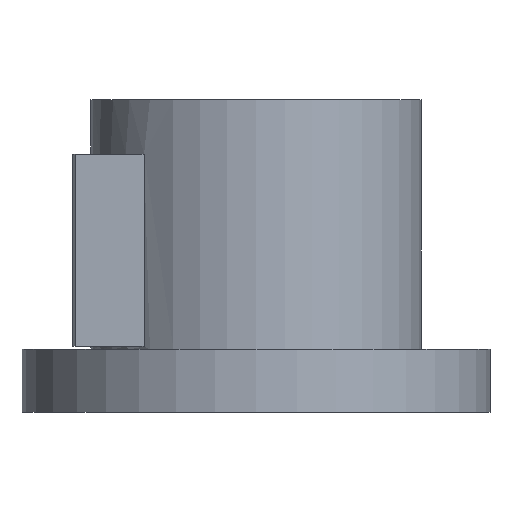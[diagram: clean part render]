
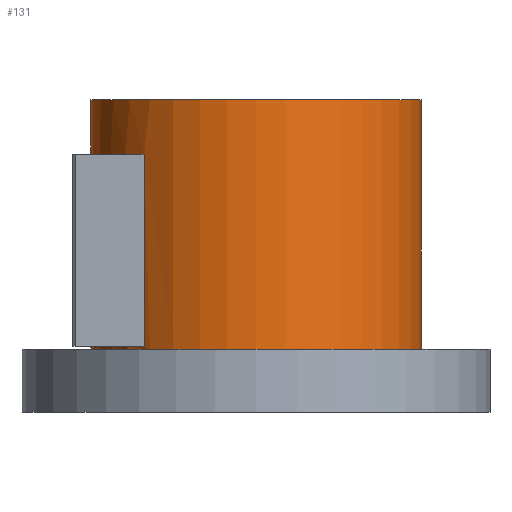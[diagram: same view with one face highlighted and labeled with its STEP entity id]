
A CAD part, front view. The second image highlights one B-rep face of the part: STEP entity #131.
In plain terms, the highlighted cylindrical face has radius 57.5 mm (diameter 115 mm), a full revolution.
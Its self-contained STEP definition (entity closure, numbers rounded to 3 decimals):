
#131=ADVANCED_FACE('',(#218,#219,#220),#161,.T.);
#161=CYLINDRICAL_SURFACE('',#550,57.5);
#174=LINE('',#752,#196);
#175=LINE('',#756,#197);
#196=VECTOR('',#612,1.);
#197=VECTOR('',#615,1.);
#218=FACE_BOUND('',#263,.T.);
#219=FACE_BOUND('',#264,.T.);
#220=FACE_BOUND('',#265,.T.);
#263=EDGE_LOOP('',(#325));
#264=EDGE_LOOP('',(#326));
#265=EDGE_LOOP('',(#327,#328,#329,#330));
#325=ORIENTED_EDGE('',*,*,#467,.F.);
#326=ORIENTED_EDGE('',*,*,#468,.T.);
#327=ORIENTED_EDGE('',*,*,#469,.F.);
#328=ORIENTED_EDGE('',*,*,#470,.F.);
#329=ORIENTED_EDGE('',*,*,#471,.T.);
#330=ORIENTED_EDGE('',*,*,#472,.F.);
#425=VERTEX_POINT('',#746);
#426=VERTEX_POINT('',#748);
#427=VERTEX_POINT('',#750);
#428=VERTEX_POINT('',#751);
#429=VERTEX_POINT('',#753);
#430=VERTEX_POINT('',#755);
#467=EDGE_CURVE('',#425,#425,#517,.T.);
#468=EDGE_CURVE('',#426,#426,#518,.T.);
#469=EDGE_CURVE('',#427,#428,#519,.T.);
#470=EDGE_CURVE('',#429,#427,#174,.T.);
#471=EDGE_CURVE('',#429,#430,#520,.T.);
#472=EDGE_CURVE('',#428,#430,#175,.T.);
#517=CIRCLE('',#546,57.5);
#518=CIRCLE('',#547,57.5);
#519=CIRCLE('',#548,57.5);
#520=CIRCLE('',#549,57.5);
#546=AXIS2_PLACEMENT_3D('',#745,#606,#607);
#547=AXIS2_PLACEMENT_3D('',#747,#608,#609);
#548=AXIS2_PLACEMENT_3D('',#749,#610,#611);
#549=AXIS2_PLACEMENT_3D('',#754,#613,#614);
#550=AXIS2_PLACEMENT_3D('',#757,#616,#617);
#606=DIRECTION('',(0.,0.,1.));
#607=DIRECTION('',(1.,0.,0.));
#608=DIRECTION('',(0.,0.,1.));
#609=DIRECTION('',(1.,0.,0.));
#610=DIRECTION('',(0.,0.,-1.));
#611=DIRECTION('',(-1.,0.,0.));
#612=DIRECTION('',(0.,0.,1.));
#613=DIRECTION('',(0.,0.,-1.));
#614=DIRECTION('',(-1.,0.,0.));
#615=DIRECTION('',(0.,0.,-1.));
#616=DIRECTION('',(0.,0.,-1.));
#617=DIRECTION('',(-1.,0.,0.));
#745=CARTESIAN_POINT('',(0.,0.,109.));
#746=CARTESIAN_POINT('',(57.5,0.,109.));
#747=CARTESIAN_POINT('',(0.,0.,22.));
#748=CARTESIAN_POINT('',(57.5,0.,22.));
#749=CARTESIAN_POINT('',(0.,0.,90.));
#750=CARTESIAN_POINT('',(-39.,-42.252,90.));
#751=CARTESIAN_POINT('',(-39.,42.252,90.));
#752=CARTESIAN_POINT('',(-39.,-42.252,109.));
#753=CARTESIAN_POINT('',(-39.,-42.252,23.));
#754=CARTESIAN_POINT('',(0.,0.,23.));
#755=CARTESIAN_POINT('',(-39.,42.252,23.));
#756=CARTESIAN_POINT('',(-39.,42.252,109.));
#757=CARTESIAN_POINT('',(0.,0.,109.));
